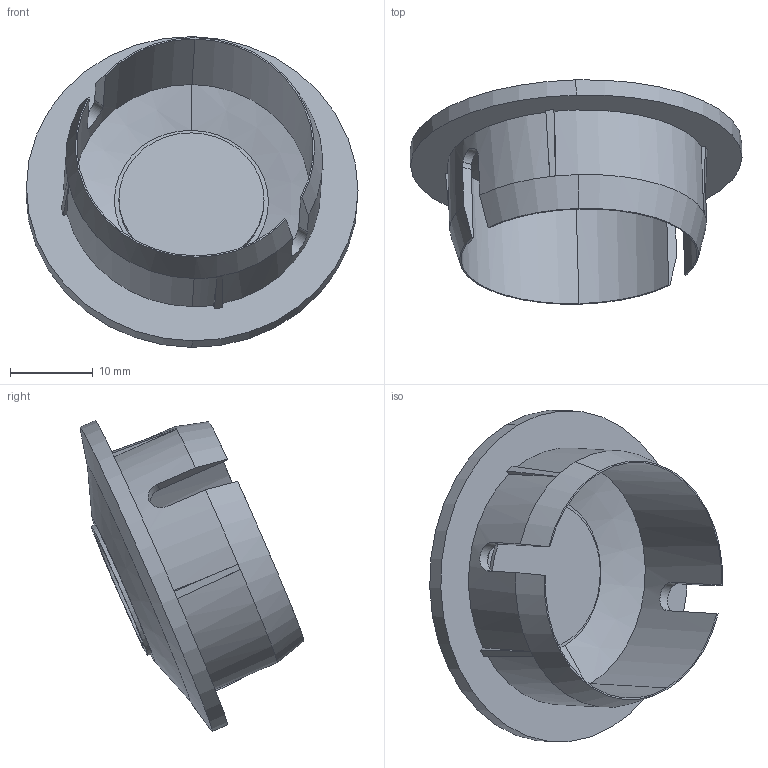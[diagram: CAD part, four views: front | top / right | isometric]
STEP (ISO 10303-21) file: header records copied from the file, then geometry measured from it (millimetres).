
FILE_DESCRIPTION (( 'STEP AP203' ), '1' );
FILE_NAME ('Cache porte oculaire_2_Défaut_sldprt.STEP', '2018-04-06T14:28:39', ( '' ), ( '' ), 'SwSTEP 2.0', 'SolidWorks 2013', '' );
FILE_SCHEMA (( 'CONFIG_CONTROL_DESIGN' ));
Length unit declared in the file: millimetre
Products named in the file (1): Cache porte oculaire_2_Défaut_sldprt
Bounding box: 40.04 x 27 x 37.49 mm (x, y, z)
Volume: 3559.9 mm3; surface area: 5873 mm2
Topology: 1 solids, 1 shells, 57 faces, 140 edges, 90 vertices
Faces by surface type: plane 29, cylinder 17, cone 11
Entity records: 1829 total; most frequent: CARTESIAN_POINT 416, ORIENTED_EDGE 280, DIRECTION 278, EDGE_CURVE 140, AXIS2_PLACEMENT_3D 104, VERTEX_POINT 90, LINE 70, VECTOR 70
